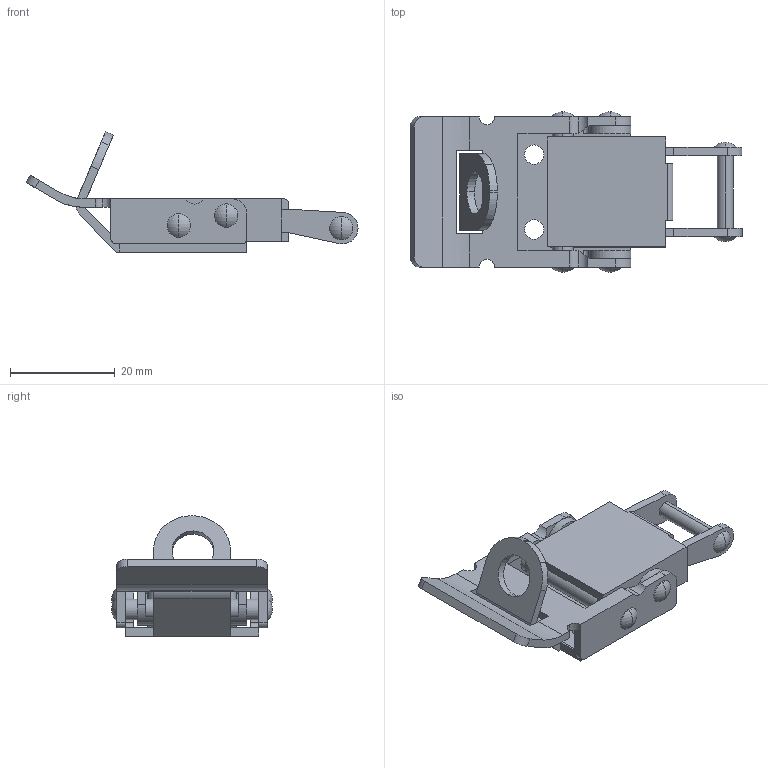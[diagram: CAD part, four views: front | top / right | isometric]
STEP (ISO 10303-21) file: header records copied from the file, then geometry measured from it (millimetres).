
FILE_DESCRIPTION((''),'2;1');
FILE_NAME('6200.01__.stp','2015-11-09T16:02:05',(''),(''),'Mechanical Desktop 2006','Mechanical Desktop 2006',', , ');
FILE_SCHEMA(('CONFIG_CONTROL_DESIGN'));
Length unit declared in the file: millimetre
Products named in the file (5): 6200.01.30; TEIL1; TEIL2; TEIL3; TEIL5
Assembly tree (4 placements, depth 2):
  6200.01.30
    TEIL1
    TEIL2
    TEIL3
    TEIL5
Bounding box: 63.4 x 30.7 x 23 mm (x, y, z)
Volume: 6139.6 mm3; surface area: 8751.8 mm2
Topology: 4 solids, 4 shells, 161 faces, 437 edges, 292 vertices
Faces by surface type: plane 78, cylinder 71, sphere 12
Entity records: 5328 total; most frequent: DIRECTION 943, CARTESIAN_POINT 895, ORIENTED_EDGE 874, EDGE_CURVE 437, AXIS2_PLACEMENT_3D 340, VERTEX_POINT 292, VECTOR 263, LINE 263
